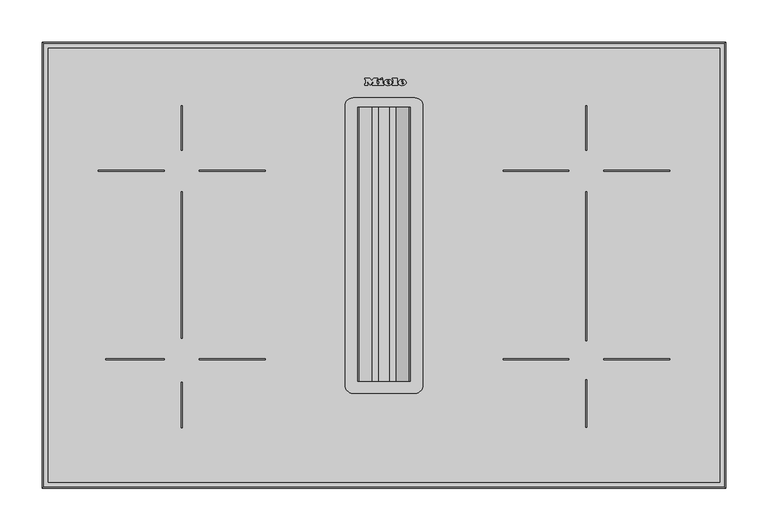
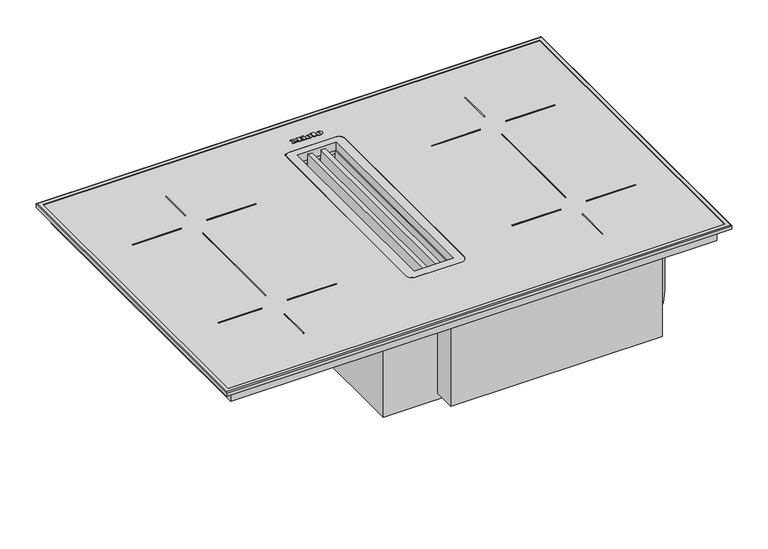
"""IFC4 building model written with IfcOpenShell, lengths in millimetres: proxy geometry, 12183180_D_KMDA7473FR-U : 26747309_D_12183180_KMDA7473FR-U."""

from ifc_helpers import new_model, si_unit, point, frame, frame_2d, origin, origin_with_axes, place, context, project, spatial, polyline, circle_curve, ellipse_curve, trimmed, segment, composite_curve, outline, extrude, faceted_brep, source, transform, mapped, element, save
from ifc_brep_helpers import plane_surface, cylinder_surface, revolved_surface, extruded_surface, advanced_brep


def specialty_equipment_97d2a497(model_context):
    return source(origin(), model_context, "Body", "SolidModel", [
        advanced_brep(
        [(20.8243124, 477.5406203, 6.0), (20.8243124, 478.3486203, 6.0), (26.1763124, 478.3486203, 6.0), (16.8643124, 478.3486203, 6.0), (19.0643124, 475.6446203, 6.0), (26.0403124, 477.5406203, 6.0), (23.6243124, 477.5406203, 6.0), (21.7203124, 476.6446203, 6.0), (20.8243124, 479.3726203, 6.0), (20.8243124, 480.2446203, 6.0), (22.1923124, 480.2446203, 6.0), (22.1923124, 479.3726203, 6.0), (20.8243124, 477.5406203, 5.0), (21.7203124, 476.6446203, 5.0), (23.6243124, 477.5406203, 5.0), (26.0403124, 477.5406203, 5.0), (19.0643124, 475.6446203, 5.0), (16.8643124, 478.3486203, 5.0), (26.1763124, 478.3486203, 5.0), (20.8243124, 478.3486203, 5.0), (20.8243124, 479.3726203, 5.0), (22.1923124, 479.3726203, 5.0), (22.1923124, 480.2446203, 5.0), (20.8243124, 480.2446203, 5.0)],
        [
            (0, 1),
            (1, 2),
            (2, 3, ellipse_curve(frame((21.5203124, 478.3486203, 6.0), z_axis=(0.0, 0.0, 1.0), x_axis=(-1.0, 0.0, 0.0)), 4.656, 3.848)),
            (3, 4, circle_curve(frame((19.960356, 478.6206203, 6.0), z_axis=(0.0, 0.0, 1.0), x_axis=(0.0, -1.0, 0.0)), 3.1079688)),
            (4, 5, circle_curve(frame((21.4271059, 480.7326203, 6.0), z_axis=(0.0, 0.0, 1.0), x_axis=(0.0, -1.0, 0.0)), 5.6098607)),
            (5, 6),
            (6, 7, circle_curve(frame((22.1113712, 478.2846203, 6.0), z_axis=(0.0, 0.0, -1.0), x_axis=(0.0, -1.0, 0.0)), 1.6859795)),
            (7, 0, circle_curve(frame((21.7203124, 477.5406203, 6.0), z_axis=(0.0, 0.0, -1.0), x_axis=(0.0, -1.0, 0.0)), 0.896)),
            (8, 9),
            (9, 10, circle_curve(frame((21.5083124, 480.2446203, 6.0), z_axis=(0.0, 0.0, -1.0), x_axis=(0.0, -1.0, 0.0)), 0.684)),
            (10, 11),
            (11, 8),
            (12, 13, circle_curve(frame((21.7203124, 477.5406203, 5.0), z_axis=(0.0, 0.0, 1.0), x_axis=(0.0, -1.0, 0.0)), 0.896)),
            (13, 14, circle_curve(frame((22.1113712, 478.2846203, 5.0), z_axis=(0.0, 0.0, 1.0), x_axis=(0.0, -1.0, 0.0)), 1.6859795)),
            (14, 15),
            (15, 16, circle_curve(frame((21.4271059, 480.7326203, 5.0), z_axis=(0.0, 0.0, -1.0), x_axis=(0.0, -1.0, 0.0)), 5.6098607)),
            (16, 17, circle_curve(frame((19.960356, 478.6206203, 5.0), z_axis=(0.0, 0.0, -1.0), x_axis=(0.0, -1.0, 0.0)), 3.1079688)),
            (17, 18, ellipse_curve(frame((21.5203124, 478.3486203, 5.0), z_axis=(0.0, 0.0, -1.0), x_axis=(-1.0, 0.0, 0.0)), 4.656, 3.848)),
            (18, 19),
            (19, 12),
            (20, 21),
            (21, 22),
            (22, 23, circle_curve(frame((21.5083124, 480.2446203, 5.0), z_axis=(0.0, 0.0, 1.0), x_axis=(0.0, -1.0, 0.0)), 0.684)),
            (23, 20),
            (0, 12),
            (19, 1),
            (18, 2),
            (5, 15),
            (14, 6),
            (17, 3),
            (13, 7),
            (16, 4),
            (8, 20),
            (23, 9),
            (22, 10),
            (21, 11),
        ],
        [
            plane_surface(frame((20.8243124, 478.3486203, 6.0), z_axis=(0.0, 0.0, 1.0), x_axis=(0.0, 1.0, 0.0))),
            plane_surface(frame((20.8243124, 478.3486203, 5.0), z_axis=(0.0, 0.0, -1.0), x_axis=(0.0, -1.0, 0.0))),
            plane_surface(frame((20.8243124, 477.5406203, 6.0), z_axis=(1.0, 0.0, 0.0), x_axis=(0.0, 0.0, -1.0))),
            plane_surface(frame((20.8243124, 478.3486203, 6.0), z_axis=(0.0, -1.0, 0.0), x_axis=(0.0, 0.0, -1.0))),
            plane_surface(frame((26.0403124, 477.5406203, 6.0), z_axis=(0.0, 1.0, 0.0), x_axis=(0.0, 0.0, -1.0))),
            extruded_surface(trimmed(ellipse_curve(frame((21.5203124, 478.3486203, 4.0), z_axis=(0.0, 0.0, 1.0), x_axis=(-1.0, 0.0, 0.0)), 4.656, 3.848), [point((26.1763124, 478.3486203, 4.0))], [point((16.8643124, 478.3486203, 4.0))], True, "CARTESIAN"), (0.0, 0.0, 1.0), 1.0),
            revolved_surface(polyline([(22.1113712, 476.5986408, 5.0), (22.1113712, 476.5986408, 6.0)]), (22.1113712, 478.2846203, 5.0), (0.0, 0.0, -1.0)),
            revolved_surface(polyline([(21.7203124, 476.6446203, 5.0), (21.7203124, 476.6446203, 6.0)]), (21.7203124, 477.5406203, 5.0), (0.0, 0.0, -1.0)),
            cylinder_surface(frame((19.960356, 478.6206203, 5.0), z_axis=(0.0, 0.0, 1.0), x_axis=(0.0, -1.0, 0.0)), 3.1079688),
            cylinder_surface(frame((21.4271059, 480.7326203, 5.0), z_axis=(0.0, 0.0, 1.0), x_axis=(0.0, -1.0, 0.0)), 5.6098607),
            plane_surface(frame((20.8243124, 479.3726203, 6.0), z_axis=(1.0, 0.0, 0.0), x_axis=(0.0, 0.0, -1.0))),
            revolved_surface(polyline([(21.5083124, 479.5606203, 5.0), (21.5083124, 479.5606203, 6.0)]), (21.5083124, 480.2446203, 5.0), (0.0, 0.0, -1.0)),
            plane_surface(frame((22.1923124, 480.2446203, 6.0), z_axis=(-1.0, 0.0, 0.0), x_axis=(0.0, 0.0, -1.0))),
            plane_surface(frame((22.1923124, 479.3726203, 6.0), z_axis=(0.0, 1.0, 0.0), x_axis=(0.0, 0.0, -1.0))),
        ],
        [
            (0, [[1, 2, 3, 4, 5, 6, 7, 8], [9, 10, 11, 12]]),
            (1, [[13, 14, 15, 16, 17, 18, 19, 20], [21, 22, 23, 24]]),
            (2, [[-1, 25, -20, 26]]),
            (3, [[-2, -26, -19, 27]]),
            (4, [[-6, 28, -15, 29]]),
            (5, [[-3, -27, -18, 30]]),
            (6, [[-7, -29, -14, 31]]),
            (7, [[-8, -31, -13, -25]]),
            (8, [[-4, -30, -17, 32]]),
            (9, [[-5, -32, -16, -28]]),
            (10, [[-9, 33, -24, 34]]),
            (11, [[-10, -34, -23, 35]]),
            (12, [[-11, -35, -22, 36]]),
            (13, [[-12, -36, -21, -33]]),
        ],
    ),
        advanced_brep(
        [(4.1283124, 477.5406203, 6.0), (4.1283124, 478.3486203, 6.0), (9.4803124, 478.3486203, 6.0), (0.1683124, 478.3486203, 6.0), (2.3683124, 475.6446203, 6.0), (9.3443124, 477.5406203, 6.0), (6.9283124, 477.5406203, 6.0), (5.0243124, 476.6446203, 6.0), (4.1283124, 479.3726203, 6.0), (4.1283124, 480.2446203, 6.0), (5.4963124, 480.2446203, 6.0), (5.4963124, 479.3726203, 6.0), (4.1283124, 477.5406203, 5.0), (5.0243124, 476.6446203, 5.0), (6.9283124, 477.5406203, 5.0), (9.3443124, 477.5406203, 5.0), (2.3683124, 475.6446203, 5.0), (0.1683124, 478.3486203, 5.0), (9.4803124, 478.3486203, 5.0), (4.1283124, 478.3486203, 5.0), (4.1283124, 479.3726203, 5.0), (5.4963124, 479.3726203, 5.0), (5.4963124, 480.2446203, 5.0), (4.1283124, 480.2446203, 5.0)],
        [
            (0, 1),
            (1, 2),
            (2, 3, ellipse_curve(frame((4.8243124, 478.3486203, 6.0), z_axis=(0.0, 0.0, 1.0), x_axis=(-1.0, 0.0, 0.0)), 4.656, 3.848)),
            (3, 4, circle_curve(frame((3.264356, 478.6206203, 6.0), z_axis=(0.0, 0.0, 1.0), x_axis=(0.0, -1.0, 0.0)), 3.1079688)),
            (4, 5, circle_curve(frame((4.7311059, 480.7326203, 6.0), z_axis=(0.0, 0.0, 1.0), x_axis=(0.0, -1.0, 0.0)), 5.6098607)),
            (5, 6),
            (6, 7, circle_curve(frame((5.4153712, 478.2846203, 6.0), z_axis=(0.0, 0.0, -1.0), x_axis=(0.0, -1.0, 0.0)), 1.6859795)),
            (7, 0, circle_curve(frame((5.0243124, 477.5406203, 6.0), z_axis=(0.0, 0.0, -1.0), x_axis=(0.0, -1.0, 0.0)), 0.896)),
            (8, 9),
            (9, 10, circle_curve(frame((4.8123124, 480.2446203, 6.0), z_axis=(0.0, 0.0, -1.0), x_axis=(0.0, -1.0, 0.0)), 0.684)),
            (10, 11),
            (11, 8),
            (12, 13, circle_curve(frame((5.0243124, 477.5406203, 5.0), z_axis=(0.0, 0.0, 1.0), x_axis=(0.0, -1.0, 0.0)), 0.896)),
            (13, 14, circle_curve(frame((5.4153712, 478.2846203, 5.0), z_axis=(0.0, 0.0, 1.0), x_axis=(0.0, -1.0, 0.0)), 1.6859795)),
            (14, 15),
            (15, 16, circle_curve(frame((4.7311059, 480.7326203, 5.0), z_axis=(0.0, 0.0, -1.0), x_axis=(0.0, -1.0, 0.0)), 5.6098607)),
            (16, 17, circle_curve(frame((3.264356, 478.6206203, 5.0), z_axis=(0.0, 0.0, -1.0), x_axis=(0.0, -1.0, 0.0)), 3.1079688)),
            (17, 18, ellipse_curve(frame((4.8243124, 478.3486203, 5.0), z_axis=(0.0, 0.0, -1.0), x_axis=(-1.0, 0.0, 0.0)), 4.656, 3.848)),
            (18, 19),
            (19, 12),
            (20, 21),
            (21, 22),
            (22, 23, circle_curve(frame((4.8123124, 480.2446203, 5.0), z_axis=(0.0, 0.0, 1.0), x_axis=(0.0, -1.0, 0.0)), 0.684)),
            (23, 20),
            (0, 12),
            (19, 1),
            (18, 2),
            (5, 15),
            (14, 6),
            (17, 3),
            (13, 7),
            (16, 4),
            (8, 20),
            (23, 9),
            (22, 10),
            (21, 11),
        ],
        [
            plane_surface(frame((4.1283124, 478.3486203, 6.0), z_axis=(0.0, 0.0, 1.0), x_axis=(0.0, 1.0, 0.0))),
            plane_surface(frame((4.1283124, 478.3486203, 5.0), z_axis=(0.0, 0.0, -1.0), x_axis=(0.0, -1.0, 0.0))),
            plane_surface(frame((4.1283124, 477.5406203, 6.0), z_axis=(1.0, 0.0, 0.0), x_axis=(0.0, 0.0, -1.0))),
            plane_surface(frame((4.1283124, 478.3486203, 6.0), z_axis=(0.0, -1.0, 0.0), x_axis=(0.0, 0.0, -1.0))),
            plane_surface(frame((9.3443124, 477.5406203, 6.0), z_axis=(0.0, 1.0, 0.0), x_axis=(0.0, 0.0, -1.0))),
            extruded_surface(trimmed(ellipse_curve(frame((4.8243124, 478.3486203, 4.0), z_axis=(0.0, 0.0, 1.0), x_axis=(-1.0, 0.0, 0.0)), 4.656, 3.848), [point((9.4803124, 478.3486203, 4.0))], [point((0.1683124, 478.3486203, 4.0))], True, "CARTESIAN"), (0.0, 0.0, 1.0), 1.0),
            revolved_surface(polyline([(5.4153712, 476.5986408, 5.0), (5.4153712, 476.5986408, 6.0)]), (5.4153712, 478.2846203, 5.0), (0.0, 0.0, -1.0)),
            revolved_surface(polyline([(5.0243124, 476.6446203, 5.0), (5.0243124, 476.6446203, 6.0)]), (5.0243124, 477.5406203, 5.0), (0.0, 0.0, -1.0)),
            cylinder_surface(frame((3.264356, 478.6206203, 5.0), z_axis=(0.0, 0.0, 1.0), x_axis=(0.0, -1.0, 0.0)), 3.1079688),
            cylinder_surface(frame((4.7311059, 480.7326203, 5.0), z_axis=(0.0, 0.0, 1.0), x_axis=(0.0, -1.0, 0.0)), 5.6098607),
            plane_surface(frame((4.1283124, 479.3726203, 6.0), z_axis=(1.0, 0.0, 0.0), x_axis=(0.0, 0.0, -1.0))),
            revolved_surface(polyline([(4.8123124, 479.5606203, 5.0), (4.8123124, 479.5606203, 6.0)]), (4.8123124, 480.2446203, 5.0), (0.0, 0.0, -1.0)),
            plane_surface(frame((5.4963124, 480.2446203, 6.0), z_axis=(-1.0, 0.0, 0.0), x_axis=(0.0, 0.0, -1.0))),
            plane_surface(frame((5.4963124, 479.3726203, 6.0), z_axis=(0.0, 1.0, 0.0), x_axis=(0.0, 0.0, -1.0))),
        ],
        [
            (0, [[1, 2, 3, 4, 5, 6, 7, 8], [9, 10, 11, 12]]),
            (1, [[13, 14, 15, 16, 17, 18, 19, 20], [21, 22, 23, 24]]),
            (2, [[-1, 25, -20, 26]]),
            (3, [[-2, -26, -19, 27]]),
            (4, [[-6, 28, -15, 29]]),
            (5, [[-3, -27, -18, 30]]),
            (6, [[-7, -29, -14, 31]]),
            (7, [[-8, -31, -13, -25]]),
            (8, [[-4, -30, -17, 32]]),
            (9, [[-5, -32, -16, -28]]),
            (10, [[-9, 33, -24, 34]]),
            (11, [[-10, -34, -23, 35]]),
            (12, [[-11, -35, -22, 36]]),
            (13, [[-12, -36, -21, -33]]),
        ],
    ),
        extrude(outline(polyline([(-4.6156876, 483.1726203), (-1.8956876, 484.4366203), (-1.2956876, 483.1406203), (-4.0076876, 481.8766203), (-4.6156876, 483.1726203)])), frame((0.0, 0.0, 5.0), z_axis=(0.0, 0.0, 1.0), x_axis=(1.0, 0.0, 0.0)), (0.0, 0.0, 1.0), 1.0),
        extrude(outline(polyline([(-6.5916876, 481.7006203), (-1.2076876, 481.7006203), (-1.2076876, 476.9886203), (-0.2796876, 476.9886203), (-0.2796876, 475.6446203), (-6.5916876, 475.6446203), (-6.5916876, 476.9886203), (-5.6396876, 476.9886203), (-5.6396876, 480.2686203), (-6.5916876, 480.2686203), (-6.5916876, 481.7006203)])), frame((0.0, 0.0, 5.0), z_axis=(0.0, 0.0, 1.0), x_axis=(1.0, 0.0, 0.0)), (0.0, 0.0, 1.0), 1.0),
        extrude(outline(polyline([(9.9283124, 482.3406203), (9.9283124, 483.6446203), (15.4323124, 483.6446203), (15.4323124, 476.9886203), (16.4163124, 476.9886203), (16.4163124, 475.6446203), (9.9283124, 475.6446203), (9.9283124, 476.9886203), (10.8883124, 476.9886203), (10.8883124, 482.3406203), (9.9283124, 482.3406203)])), frame((0.0, 0.0, 5.0), z_axis=(0.0, 0.0, 1.0), x_axis=(1.0, 0.0, 0.0)), (0.0, 0.0, 1.0), 1.0),
        extrude(outline(polyline([(-22.5356876, 482.3406203), (-22.5356876, 483.6446203), (-16.9596876, 483.6446203), (-14.6156876, 480.6446203), (-12.2796876, 483.6446203), (-7.4076876, 483.6446203), (-7.4076876, 482.3406203), (-8.4236876, 482.3406203), (-8.4236876, 476.9886203), (-7.4076876, 476.9886203), (-7.4076876, 475.6446203), (-13.7916876, 475.6446203), (-13.7916876, 476.9886203), (-12.8076876, 476.9886203), (-12.8076876, 480.4598426), (-16.3996876, 475.6446203), (-19.9756876, 480.3917451), (-19.9756876, 476.9886203), (-19.0156876, 476.9886203), (-19.0156876, 475.6446203), (-22.5356876, 475.6446203), (-22.5356876, 476.9886203), (-21.5676876, 476.9886203), (-21.5676876, 482.3406203), (-22.5356876, 482.3406203)])), frame((0.0, 0.0, 5.0), z_axis=(0.0, 0.0, 1.0), x_axis=(1.0, 0.0, 0.0)), (0.0, 0.0, 1.0), 1.0),
        faceted_brep([(-71.7186221, 463.5236466, -23.0), (-364.8972461, 463.5236466, -23.0), (-364.8972461, 62.427471, -23.0), (-71.7186221, 62.427471, -23.0), (-71.7186221, 62.427471, -49.8134964), (-364.8972461, 62.427471, -49.8134964), (-364.8972461, 463.5236466, -49.8134964), (-86.144412, 463.5236466, -49.8134964), (-86.144412, 355.5236466, -49.8134964), (-71.7186221, 355.5236466, -49.8134964), (-71.7186221, 463.5236466, -31.728133), (-86.144412, 463.5236466, -31.728133), (-71.7186221, 355.5236466, -31.728133), (-86.144412, 355.5236466, -31.728133)], [[[0, 1, 2, 3]], [[4, 5, 6, 7, 8, 9]], [[1, 0, 10, 11, 7, 6]], [[2, 1, 6, 5]], [[3, 2, 5, 4]], [[0, 3, 4, 9, 12, 10]], [[8, 13, 12, 9]], [[12, 13, 11, 10]], [[13, 8, 7, 11]]]),
        extrude(outline(polyline([(388.0, 511.0), (388.0, 15.0), (-388.0, 15.0), (-388.0, 511.0), (388.0, 511.0)]), holes=[composite_curve([segment(trimmed(circle_curve(frame_2d((36.5, 121.5)), 9.5), [point((36.5, 112.0))], [point((46.0, 121.5))], True, "CARTESIAN"), True, "CONTINUOUS"), segment(polyline([(46.0, 121.5), (46.0, 451.0)]), True, "CONTINUOUS"), segment(trimmed(circle_curve(frame_2d((36.5, 451.0)), 9.5), [point((46.0, 451.0))], [point((36.5, 460.5))], True, "CARTESIAN"), True, "CONTINUOUS"), segment(polyline([(36.5, 460.5), (-36.5395335, 460.5)]), True, "CONTINUOUS"), segment(trimmed(circle_curve(frame_2d((-36.5395335, 451.0395335)), 9.4604665), [point((-36.5395335, 460.5))], [point((-46.0, 451.0395335))], True, "CARTESIAN"), True, "CONTINUOUS"), segment(polyline([(-46.0, 451.0395335), (-46.0, 121.5)]), True, "CONTINUOUS"), segment(trimmed(circle_curve(frame_2d((-36.5, 121.5)), 9.5), [point((-46.0, 121.5))], [point((-36.5, 112.0))], True, "CARTESIAN"), True, "CONTINUOUS"), segment(polyline([(-36.5, 112.0), (36.5, 112.0)]), True, "CONTINUOUS")], self_intersect=False)]), frame((0.0, 0.0, -23.0), z_axis=(0.0, 0.0, 1.0), x_axis=(1.0, 0.0, 0.0)), (0.0, 0.0, 1.0), 23.0),
        extrude(outline(polyline([(400.0, 523.0), (400.0, 3.0), (-400.0, 3.0), (-400.0, 523.0), (400.0, 523.0)]), holes=[composite_curve([segment(polyline([(36.5, 460.5), (-36.5, 460.5)]), True, "CONTINUOUS"), segment(trimmed(circle_curve(frame_2d((-36.5, 451.0)), 9.5), [point((-36.5, 460.5))], [point((-46.0, 451.0))], True, "CARTESIAN"), True, "CONTINUOUS"), segment(polyline([(-46.0, 451.0), (-46.0, 121.5)]), True, "CONTINUOUS"), segment(trimmed(circle_curve(frame_2d((-36.5, 121.5)), 9.5), [point((-46.0, 121.5))], [point((-36.5, 112.0))], True, "CARTESIAN"), True, "CONTINUOUS"), segment(polyline([(-36.5, 112.0), (36.5, 112.0)]), True, "CONTINUOUS"), segment(trimmed(circle_curve(frame_2d((36.5, 121.5)), 9.5), [point((36.5, 112.0))], [point((46.0, 121.5))], True, "CARTESIAN"), True, "CONTINUOUS"), segment(polyline([(46.0, 121.5), (46.0, 451.0)]), True, "CONTINUOUS"), segment(trimmed(circle_curve(frame_2d((36.5, 451.0)), 9.5), [point((46.0, 451.0))], [point((36.5, 460.5))], True, "CARTESIAN"), True, "CONTINUOUS")], self_intersect=False)]), origin_with_axes(), (0.0, 0.0, 1.0), 5.0),
        advanced_brep(
        [(401.854005, 524.854005, 5.8455827), (401.854005, 524.854005, 0.0), (401.854005, 1.145995, 0.0), (401.854005, 1.145995, 5.8455827), (395.9867041, 518.9867041, 7.0), (395.9867041, 518.9867041, 5.8455827), (395.9867041, 7.0132959, 5.8455827), (395.9867041, 7.0132959, 7.0), (403.0, 526.0, 0.0), (403.0, 526.0, 5.5), (403.0, 0.0, 5.5), (403.0, 0.0, 0.0), (-401.854005, 1.145995, 0.0), (-401.854005, 1.145995, 5.8455827), (-395.9867041, 7.0132959, 5.8455827), (-395.9867041, 7.0132959, 7.0), (-403.0, 0.0, 5.5), (-403.0, 0.0, 0.0), (-401.854005, 524.854005, 0.0), (-401.854005, 524.854005, 5.8455827), (-395.9867041, 518.9867041, 5.8455827), (-395.9867041, 518.9867041, 7.0), (-403.0, 526.0, 5.5), (-403.0, 526.0, 0.0), (401.5, 524.5, 7.0), (-401.5, 524.5, 7.0), (-401.5, 1.5, 7.0), (401.5, 1.5, 7.0)],
        [
            (0, 1),
            (1, 2),
            (2, 3),
            (3, 0),
            (4, 5),
            (5, 6),
            (6, 7),
            (7, 4),
            (8, 9),
            (9, 10),
            (10, 11),
            (11, 8),
            (2, 12),
            (12, 13),
            (13, 3),
            (6, 14),
            (14, 15),
            (15, 7),
            (10, 16),
            (16, 17),
            (17, 11),
            (12, 18),
            (18, 19),
            (19, 13),
            (14, 20),
            (20, 21),
            (21, 15),
            (16, 22),
            (22, 23),
            (23, 17),
            (23, 8),
            (1, 18),
            (0, 19),
            (5, 20),
            (4, 21),
            (24, 25),
            (25, 26),
            (26, 27),
            (27, 24),
            (22, 9),
            (9, 24, ellipse_curve(frame((401.5, 524.5, 5.5), z_axis=(0.7071067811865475, -0.7071067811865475, 0.0), x_axis=(0.7071067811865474, 0.7071067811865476, 0.0)), 2.1213203, 1.5)),
            (27, 10, ellipse_curve(frame((401.5, 1.5, 5.5), z_axis=(0.7071067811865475, 0.7071067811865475, 0.0), x_axis=(-0.7071067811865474, 0.7071067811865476, 0.0)), 2.1213203, 1.5)),
            (26, 16, ellipse_curve(frame((-401.5, 1.5, 5.5), z_axis=(0.7071067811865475, -0.7071067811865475, 0.0), x_axis=(0.7071067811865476, 0.7071067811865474, 0.0)), 2.1213203, 1.5)),
            (25, 22, ellipse_curve(frame((-401.5, 524.5, 5.5), z_axis=(-0.7071067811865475, -0.7071067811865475, 0.0), x_axis=(0.7071067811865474, -0.7071067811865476, 0.0)), 2.1213203, 1.5)),
        ],
        [
            plane_surface(frame((401.854005, 524.854005, 0.0), z_axis=(-1.0, 0.0, 0.0), x_axis=(0.0, -1.0, 0.0))),
            plane_surface(frame((395.9867041, 518.9867041, 5.8455827), z_axis=(-1.0, 0.0, 0.0), x_axis=(0.0, -1.0, 0.0))),
            plane_surface(frame((403.0, 526.0, 5.5), z_axis=(1.0, 0.0, 0.0), x_axis=(0.0, -1.0, 0.0))),
            plane_surface(frame((401.854005, 1.145995, 0.0), z_axis=(0.0, 1.0, 0.0), x_axis=(-1.0, 0.0, 0.0))),
            plane_surface(frame((395.9867041, 7.0132959, 5.8455827), z_axis=(0.0, 1.0, 0.0), x_axis=(-1.0, 0.0, 0.0))),
            plane_surface(frame((403.0, 0.0, 5.5), z_axis=(0.0, -1.0, 0.0), x_axis=(-1.0, 0.0, 0.0))),
            plane_surface(frame((-401.854005, 1.145995, 0.0), z_axis=(1.0, 0.0, 0.0), x_axis=(0.0, 1.0, 0.0))),
            plane_surface(frame((-395.9867041, 7.0132959, 5.8455827), z_axis=(1.0, 0.0, 0.0), x_axis=(0.0, 1.0, 0.0))),
            plane_surface(frame((-403.0, 0.0, 5.5), z_axis=(-1.0, 0.0, 0.0), x_axis=(0.0, 1.0, 0.0))),
            plane_surface(frame((-403.0, 526.0, 0.0), z_axis=(0.0, 0.0, -1.0), x_axis=(1.0, 0.0, 0.0))),
            plane_surface(frame((-401.854005, 524.854005, 0.0), z_axis=(0.0, -1.0, 0.0), x_axis=(1.0, 0.0, 0.0))),
            plane_surface(frame((-401.854005, 524.854005, 5.8455827), z_axis=(0.0, 0.0, -1.0), x_axis=(1.0, 0.0, 0.0))),
            plane_surface(frame((-395.9867041, 518.9867041, 5.8455827), z_axis=(0.0, -1.0, 0.0), x_axis=(1.0, 0.0, 0.0))),
            plane_surface(frame((-395.9867041, 518.9867041, 7.0), z_axis=(0.0, 0.0, 1.0), x_axis=(1.0, 0.0, 0.0))),
            plane_surface(frame((-403.0, 526.0, 5.5), z_axis=(0.0, 1.0, 0.0), x_axis=(1.0, 0.0, 0.0))),
            cylinder_surface(frame((401.5, 526.0, 5.5), z_axis=(0.0, 1.0, 0.0), x_axis=(1.0, 0.0, 0.0)), 1.5),
            cylinder_surface(frame((403.0, 1.5, 5.5), z_axis=(1.0, 0.0, 0.0), x_axis=(0.0, -1.0, 0.0)), 1.5),
            cylinder_surface(frame((-401.5, 0.0, 5.5), z_axis=(0.0, -1.0, 0.0), x_axis=(-1.0, 0.0, 0.0)), 1.5),
            cylinder_surface(frame((-403.0, 524.5, 5.5), z_axis=(-1.0, 0.0, 0.0), x_axis=(0.0, 1.0, 0.0)), 1.5),
        ],
        [
            (0, [[1, 2, 3, 4]]),
            (1, [[5, 6, 7, 8]]),
            (2, [[9, 10, 11, 12]]),
            (3, [[-3, 13, 14, 15]]),
            (4, [[-7, 16, 17, 18]]),
            (5, [[-11, 19, 20, 21]]),
            (6, [[-14, 22, 23, 24]]),
            (7, [[-17, 25, 26, 27]]),
            (8, [[-20, 28, 29, 30]]),
            (9, [[-21, -30, 31, -12], [32, -22, -13, -2]]),
            (10, [[-23, -32, -1, 33]]),
            (11, [[-15, -24, -33, -4], [34, -25, -16, -6]]),
            (12, [[-26, -34, -5, 35]]),
            (13, [[36, 37, 38, 39], [-18, -27, -35, -8]]),
            (14, [[-29, 40, -9, -31]]),
            (15, [[41, -39, 42, -10]]),
            (16, [[-42, -38, 43, -19]]),
            (17, [[-43, -37, 44, -28]]),
            (18, [[-44, -36, -41, -40]]),
        ],
    ),
        extrude(outline(polyline([(-45.5823584, -70.2509053), (-35.5367274, -70.2509053), (-35.5367274, -77.4712026), (-36.7924312, -77.4712026), (-36.7924312, -71.5066091), (-39.7747279, -71.5066091), (-39.7747279, -77.1572766), (-41.0304318, -77.1572766), (-41.0304318, -71.5066091), (-44.3266545, -71.5066091), (-44.3266545, -77.6281655), (-45.5823584, -77.6281655), (-45.5823584, -70.2509053)])), frame((0.0, 408.5236466, 0.0), z_axis=(0.0, 1.0, 0.0), x_axis=(0.0, 0.0, 1.0)), (0.0, 0.0, 1.0), 1.0),
        extrude(outline(polyline([(-45.5823584, -79.5117214), (-35.5367274, -79.5117214), (-35.5367274, -80.7674252), (-44.3266545, -80.7674252), (-44.3266545, -85.7902407), (-45.5823584, -85.7902407), (-45.5823584, -79.5117214)])), frame((0.0, 408.5236466, 0.0), z_axis=(0.0, 1.0, 0.0), x_axis=(0.0, 0.0, 1.0)), (0.0, 0.0, 1.0), 1.0),
        extrude(outline(polyline([(-238.0, 350.0), (-238.0, 177.0), (-239.0, 177.0), (-239.0, 350.0), (-238.0, 350.0)])), frame((0.0, 0.0, 5.0), z_axis=(0.0, 0.0, 1.0), x_axis=(1.0, 0.0, 0.0)), (0.0, 0.0, 1.0), 1.0),
        extrude(outline(polyline([(238.0, 350.0), (239.0, 350.0), (239.0, 174.2818617), (238.0, 174.2818617), (238.0, 350.0)])), frame((0.0, 0.0, 5.0), z_axis=(0.0, 0.0, 1.0), x_axis=(1.0, 0.0, 0.0)), (0.0, 0.0, 1.0), 1.0),
        advanced_brep(
        [(-86.144412, 373.5236466, -40.8134964), (-86.144412, 383.5236466, -40.8134964), (-71.144412, 373.5236466, -40.8134964), (-81.144412, 383.5236466, -40.8134964), (-71.144412, 408.5236466, -40.8134964), (-81.144412, 408.5236466, -40.8134964)],
        [
            (0, 1, circle_curve(frame((-86.144412, 378.5236466, -40.8134964), z_axis=(-1.0, 0.0, 0.0), x_axis=(0.0, 1.0, 0.0)), 5.0)),
            (1, 0, circle_curve(frame((-86.144412, 378.5236466, -40.8134964), z_axis=(-1.0, 0.0, 0.0), x_axis=(0.0, 1.0, 0.0)), 5.0)),
            (0, 2),
            (2, 3, ellipse_curve(frame((-76.144412, 378.5236466, -40.8134964), z_axis=(-0.7071067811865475, -0.7071067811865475, 0.0), x_axis=(-0.7071067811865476, 0.7071067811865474, 0.0)), 7.0710678, 5.0)),
            (3, 1),
            (3, 2, ellipse_curve(frame((-76.144412, 378.5236466, -40.8134964), z_axis=(-0.7071067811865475, -0.7071067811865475, 0.0), x_axis=(-0.7071067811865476, 0.7071067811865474, 0.0)), 7.0710678, 5.0)),
            (4, 5, circle_curve(frame((-76.144412, 408.5236466, -40.8134964), z_axis=(0.0, 1.0, 0.0), x_axis=(-1.0, 0.0, 0.0)), 5.0)),
            (5, 4, circle_curve(frame((-76.144412, 408.5236466, -40.8134964), z_axis=(0.0, 1.0, 0.0), x_axis=(-1.0, 0.0, 0.0)), 5.0)),
            (2, 4),
            (5, 3),
        ],
        [
            plane_surface(frame((-86.144412, 378.5236466, 0.0), z_axis=(-1.0, 0.0, 0.0), x_axis=(0.0, 0.0, 1.0))),
            cylinder_surface(frame((-86.144412, 378.5236466, -40.8134964), z_axis=(-1.0, 0.0, 0.0), x_axis=(0.0, 1.0, 0.0)), 5.0),
            plane_surface(frame((-76.144412, 408.5236466, 0.0), z_axis=(0.0, 1.0, 0.0), x_axis=(0.0, 0.0, 1.0))),
            cylinder_surface(frame((-76.144412, 378.5236466, -40.8134964), z_axis=(0.0, -1.0, 0.0), x_axis=(-1.0, 0.0, 0.0)), 5.0),
        ],
        [
            (0, [[1, 2]]),
            (1, [[-1, 3, 4, 5]]),
            (1, [[-2, -5, 6, -3]]),
            (2, [[7, 8]]),
            (3, [[-4, 9, -8, 10]]),
            (3, [[-6, -10, -7, -9]]),
        ],
    ),
        extrude(outline(polyline([(-259.0, 375.0), (-259.0, 374.0), (-337.0, 374.0), (-337.0, 375.0), (-259.0, 375.0)])), frame((0.0, 0.0, 5.0), z_axis=(0.0, 0.0, 1.0), x_axis=(1.0, 0.0, 0.0)), (0.0, 0.0, 1.0), 1.0),
        extrude(outline(polyline([(-140.0, 375.0), (-140.0, 374.0), (-218.0, 374.0), (-218.0, 375.0), (-140.0, 375.0)])), frame((0.0, 0.0, 5.0), z_axis=(0.0, 0.0, 1.0), x_axis=(1.0, 0.0, 0.0)), (0.0, 0.0, 1.0), 1.0),
        extrude(outline(polyline([(-259.0, 151.7), (-328.4422621, 151.7), (-328.4422621, 152.7), (-259.0, 152.7), (-259.0, 151.7)])), frame((0.0, 0.0, 5.0), z_axis=(0.0, 0.0, 1.0), x_axis=(1.0, 0.0, 0.0)), (0.0, 0.0, 1.0), 1.0),
        extrude(outline(polyline([(-140.0, 152.7), (-140.0, 151.7), (-218.0, 151.7), (-218.0, 152.7), (-140.0, 152.7)])), frame((0.0, 0.0, 5.0), z_axis=(0.0, 0.0, 1.0), x_axis=(1.0, 0.0, 0.0)), (0.0, 0.0, 1.0), 1.0),
        extrude(outline(polyline([(259.0, 375.0), (337.0, 375.0), (337.0, 374.0), (259.0, 374.0), (259.0, 375.0)])), frame((0.0, 0.0, 5.0), z_axis=(0.0, 0.0, 1.0), x_axis=(1.0, 0.0, 0.0)), (0.0, 0.0, 1.0), 1.0),
        extrude(outline(polyline([(140.5, 375.0), (218.0, 375.0), (218.0, 374.0), (140.5, 374.0), (140.5, 375.0)])), frame((0.0, 0.0, 5.0), z_axis=(0.0, 0.0, 1.0), x_axis=(1.0, 0.0, 0.0)), (0.0, 0.0, 1.0), 1.0),
        extrude(outline(polyline([(-239.0, 71.5), (-239.0, 125.0), (-238.0, 125.0), (-238.0, 71.5), (-239.0, 71.5)])), frame((0.0, 0.0, 5.0), z_axis=(0.0, 0.0, 1.0), x_axis=(1.0, 0.0, 0.0)), (0.0, 0.0, 1.0), 1.0),
        extrude(outline(polyline([(239.0, 72.0), (238.0, 72.0), (238.0, 128.0), (239.0, 128.0), (239.0, 72.0)])), frame((0.0, 0.0, 5.0), z_axis=(0.0, 0.0, 1.0), x_axis=(1.0, 0.0, 0.0)), (0.0, 0.0, 1.0), 1.0),
        extrude(outline(polyline([(239.0, 451.5), (239.0, 399.0), (238.0, 399.0), (238.0, 451.5), (239.0, 451.5)])), frame((0.0, 0.0, 5.0), z_axis=(0.0, 0.0, 1.0), x_axis=(1.0, 0.0, 0.0)), (0.0, 0.0, 1.0), 1.0),
        extrude(outline(polyline([(-239.0, 451.5), (-238.0, 451.5), (-238.0, 399.0), (-239.0, 399.0), (-239.0, 451.5)])), frame((0.0, 0.0, 5.0), z_axis=(0.0, 0.0, 1.0), x_axis=(1.0, 0.0, 0.0)), (0.0, 0.0, 1.0), 1.0),
        extrude(outline(polyline([(259.0, 151.7), (259.0, 152.7), (337.0, 152.7), (337.0, 151.7), (259.0, 151.7)])), frame((0.0, 0.0, 5.0), z_axis=(0.0, 0.0, 1.0), x_axis=(1.0, 0.0, 0.0)), (0.0, 0.0, 1.0), 1.0),
        extrude(outline(polyline([(140.5, 151.7), (140.5, 152.7), (218.0, 152.7), (218.0, 151.7), (140.5, 151.7)])), frame((0.0, 0.0, 5.0), z_axis=(0.0, 0.0, 1.0), x_axis=(1.0, 0.0, 0.0)), (0.0, 0.0, 1.0), 1.0),
        extrude(outline(polyline([(14.0, 126.177901), (7.0, 126.177901), (7.0, 449.3010247), (14.0, 449.3010247), (14.0, 126.177901)])), frame((0.0, 0.0, -30.0), z_axis=(0.0, 0.0, 1.0), x_axis=(1.0, 0.0, 0.0)), (0.0, 0.0, 1.0), 30.0),
        extrude(outline(polyline([(-7.0, 126.177901), (-14.0, 126.177901), (-14.0, 449.3010247), (-7.0, 449.3010247), (-7.0, 126.177901)])), frame((0.0, 0.0, -30.0), z_axis=(0.0, 0.0, 1.0), x_axis=(1.0, 0.0, 0.0)), (0.0, 0.0, 1.0), 30.0),
        extrude(outline(polyline([(-149.3933796, 8.7812172), (-23.0, 31.0806576), (-8.6002538, 31.0806576), (-8.6002538, 30.0806576), (-22.9176, 30.0806576), (-148.3933796, 7.9334714), (-148.3933796, -10.4294884), (-23.1226136, -30.0513858), (-8.6002538, -30.0513858), (-8.6002538, -31.0802193), (-23.0, -31.0802193), (-149.3933796, -11.2930358), (-149.3933796, 8.7812172)])), frame((0.0, 126.177901, 0.0), z_axis=(0.0, 1.0, 0.0), x_axis=(0.0, 0.0, 1.0)), (0.0, 0.0, 1.0), 323.1231238),
        advanced_brep(
        [(65.0, 90.0, -196.0003671), (65.0, 90.0, -23.0), (-55.0, 90.0, -23.0), (-58.0, 90.0, -26.0), (-58.0, 90.0, -78.0), (-97.8585744, 90.0, -78.0), (-100.8585744, 90.0, -81.0), (-100.8585744, 90.0, -196.0003671), (65.0, 476.0, -196.0003671), (-100.8585744, 476.0, -196.0003671), (-100.8585744, 476.0, -81.0), (-97.8585744, 476.0, -78.0), (-58.0, 476.0, -78.0), (-58.0, 476.0, -26.0), (-55.0, 476.0, -23.0), (65.0, 476.0, -23.0), (-31.0802193, 449.3010247, -23.0), (31.0806576, 449.3010247, -23.0), (31.0806576, 126.177901, -23.0), (-31.0802193, 126.177901, -23.0), (31.0806576, 449.3010247, -150.3933796), (-31.0802193, 449.3010247, -150.3933796), (-31.0802193, 126.177901, -150.3933796), (31.0806576, 126.177901, -150.3933796)],
        [
            (0, 1),
            (1, 2),
            (2, 3, circle_curve(frame((-55.0, 90.0, -26.0), z_axis=(0.0, -1.0, 0.0), x_axis=(1.0, 0.0, 0.0)), 3.0)),
            (3, 4),
            (4, 5),
            (5, 6, circle_curve(frame((-97.8585744, 90.0, -81.0), z_axis=(0.0, -1.0, 0.0), x_axis=(1.0, 0.0, 0.0)), 3.0)),
            (6, 7),
            (7, 0),
            (8, 9),
            (9, 10),
            (10, 11, circle_curve(frame((-97.8585744, 476.0, -81.0), z_axis=(0.0, 1.0, 0.0), x_axis=(1.0, 0.0, 0.0)), 3.0)),
            (11, 12),
            (12, 13),
            (13, 14, circle_curve(frame((-55.0, 476.0, -26.0), z_axis=(0.0, 1.0, 0.0), x_axis=(1.0, 0.0, 0.0)), 3.0)),
            (14, 15),
            (15, 8),
            (0, 8),
            (15, 1),
            (14, 2),
            (16, 17),
            (17, 18),
            (18, 19),
            (19, 16),
            (3, 13),
            (12, 4),
            (11, 5),
            (6, 10),
            (9, 7),
            (20, 21),
            (21, 22),
            (22, 23),
            (23, 20),
            (20, 17),
            (16, 21),
            (19, 22),
            (18, 23),
        ],
        [
            plane_surface(frame((65.0, 90.0, -196.0003671), z_axis=(0.0, -1.0, 0.0), x_axis=(0.0, 0.0, 1.0))),
            plane_surface(frame((65.0, 476.0, -196.0003671), z_axis=(0.0, 1.0, 0.0), x_axis=(0.0, 0.0, -1.0))),
            plane_surface(frame((65.0, 90.0, -196.0003671), z_axis=(1.0, 0.0, 0.0), x_axis=(0.0, 1.0, 0.0))),
            plane_surface(frame((65.0, 90.0, -23.0), z_axis=(0.0, 0.0, 1.0), x_axis=(0.0, 1.0, 0.0))),
            plane_surface(frame((-58.0, 90.0, -26.0), z_axis=(-1.0, 0.0, 0.0), x_axis=(0.0, 1.0, 0.0))),
            plane_surface(frame((-58.0, 90.0, -78.0), z_axis=(0.0, 0.0, 1.0), x_axis=(0.0, 1.0, 0.0))),
            plane_surface(frame((-100.8585744, 90.0, -81.0), z_axis=(-1.0, 0.0, 0.0), x_axis=(0.0, 1.0, 0.0))),
            plane_surface(frame((-100.8585744, 90.0, -196.0003671), z_axis=(0.0, 0.0, -1.0), x_axis=(0.0, 1.0, 0.0))),
            cylinder_surface(frame((-55.0, 476.0, -26.0), z_axis=(0.0, -1.0, 0.0), x_axis=(1.0, 0.0, 0.0)), 3.0),
            cylinder_surface(frame((-97.8585744, 476.0, -81.0), z_axis=(0.0, -1.0, 0.0), x_axis=(1.0, 0.0, 0.0)), 3.0),
            plane_surface(frame((-31.0802193, 449.3010247, -150.3933796), z_axis=(0.0, 0.0, 1.0), x_axis=(1.0, 0.0, 0.0))),
            plane_surface(frame((31.0806576, 449.3010247, 0.0), z_axis=(0.0, -1.0, 0.0), x_axis=(0.0, 0.0, -1.0))),
            plane_surface(frame((-31.0802193, 449.3010247, 0.0), z_axis=(1.0, 0.0, 0.0), x_axis=(0.0, 0.0, -1.0))),
            plane_surface(frame((-31.0802193, 126.177901, 0.0), z_axis=(0.0, 1.0, 0.0), x_axis=(0.0, 0.0, -1.0))),
            plane_surface(frame((31.0806576, 126.177901, 0.0), z_axis=(-1.0, 0.0, 0.0), x_axis=(0.0, 0.0, -1.0))),
        ],
        [
            (0, [[1, 2, 3, 4, 5, 6, 7, 8]]),
            (1, [[9, 10, 11, 12, 13, 14, 15, 16]]),
            (2, [[-1, 17, -16, 18]]),
            (3, [[-2, -18, -15, 19], [20, 21, 22, 23]]),
            (4, [[-4, 24, -13, 25]]),
            (5, [[-5, -25, -12, 26]]),
            (6, [[-7, 27, -10, 28]]),
            (7, [[-8, -28, -9, -17]]),
            (8, [[-3, -19, -14, -24]]),
            (9, [[-6, -26, -11, -27]]),
            (10, [[29, 30, 31, 32]]),
            (11, [[-29, 33, -20, 34]]),
            (12, [[-30, -34, -23, 35]]),
            (13, [[-31, -35, -22, 36]]),
            (14, [[-32, -36, -21, -33]]),
        ],
    ),
        advanced_brep(
        [(-36.5, 112.0, 5.0), (36.5, 112.0, 5.0), (46.0, 121.5, 5.0), (46.0, 453.9999992, 5.0), (36.5, 463.4999992, 5.0), (-36.5, 463.4999992, 5.0), (-46.0, 453.9999992, 5.0), (-46.0, 121.5, 5.0), (31.0806576, 449.3010247, 5.0), (31.0806576, 126.177901, 5.0), (-31.0802193, 126.177901, 5.0), (-31.0802193, 449.3010247, 5.0), (-36.5, 112.0, -8.6002538), (-46.0, 121.5, -8.6002538), (-46.0, 453.9999992, -8.6002538), (-36.5, 463.4999992, -8.6002538), (36.5, 463.4999992, -8.6002538), (46.0, 453.9999992, -8.6002538), (46.0, 121.5, -8.6002538), (36.5, 112.0, -8.6002538), (31.0806576, 449.3010247, -8.6002538), (-31.0802193, 449.3010247, -8.6002538), (-31.0802193, 126.177901, -8.6002538), (31.0806576, 126.177901, -8.6002538), (31.0806576, 449.3010247, 0.0), (31.0806576, 126.177901, 0.0), (-31.0802193, 126.177901, 0.0), (-31.0802193, 449.3010247, 0.0)],
        [
            (0, 1),
            (1, 2, circle_curve(frame((36.5, 121.5, 5.0), z_axis=(0.0, 0.0, 1.0), x_axis=(1.0, 0.0, 0.0)), 9.5)),
            (2, 3),
            (3, 4, circle_curve(frame((36.5, 453.9999992, 5.0), z_axis=(0.0, 0.0, 1.0), x_axis=(1.0, 0.0, 0.0)), 9.5)),
            (4, 5),
            (5, 6, circle_curve(frame((-36.5, 453.9999992, 5.0), z_axis=(0.0, 0.0, 1.0), x_axis=(1.0, 0.0, 0.0)), 9.5)),
            (6, 7),
            (7, 0, circle_curve(frame((-36.5, 121.5, 5.0), z_axis=(0.0, 0.0, 1.0), x_axis=(1.0, 0.0, 0.0)), 9.5)),
            (8, 9),
            (9, 10),
            (10, 11),
            (11, 8),
            (12, 13, circle_curve(frame((-36.5, 121.5, -8.6002538), z_axis=(0.0, 0.0, -1.0), x_axis=(1.0, 0.0, 0.0)), 9.5)),
            (13, 14),
            (14, 15, circle_curve(frame((-36.5, 453.9999992, -8.6002538), z_axis=(0.0, 0.0, -1.0), x_axis=(1.0, 0.0, 0.0)), 9.5)),
            (15, 16),
            (16, 17, circle_curve(frame((36.5, 453.9999992, -8.6002538), z_axis=(0.0, 0.0, -1.0), x_axis=(1.0, 0.0, 0.0)), 9.5)),
            (17, 18),
            (18, 19, circle_curve(frame((36.5, 121.5, -8.6002538), z_axis=(0.0, 0.0, -1.0), x_axis=(1.0, 0.0, 0.0)), 9.5)),
            (19, 12),
            (20, 21),
            (21, 22),
            (22, 23),
            (23, 20),
            (0, 12),
            (19, 1),
            (18, 2),
            (17, 3),
            (16, 4),
            (15, 5),
            (14, 6),
            (13, 7),
            (8, 24),
            (24, 20),
            (23, 25),
            (25, 9),
            (22, 26),
            (26, 10),
            (21, 27),
            (27, 11),
        ],
        [
            plane_surface(frame((36.5, 112.0, 5.0), z_axis=(0.0, 0.0, 1.0), x_axis=(1.0, 0.0, 0.0))),
            plane_surface(frame((36.5, 112.0, -8.6002538), z_axis=(0.0, 0.0, -1.0), x_axis=(-1.0, 0.0, 0.0))),
            plane_surface(frame((-36.5, 112.0, 5.0), z_axis=(0.0, -1.0, 0.0), x_axis=(0.0, 0.0, -1.0))),
            cylinder_surface(frame((36.5, 121.5, -8.6002538), z_axis=(0.0, 0.0, 1.0), x_axis=(1.0, 0.0, 0.0)), 9.5),
            plane_surface(frame((46.0, 121.5, 5.0), z_axis=(1.0, 0.0, 0.0), x_axis=(0.0, 0.0, -1.0))),
            cylinder_surface(frame((36.5, 453.9999992, -8.6002538), z_axis=(0.0, 0.0, 1.0), x_axis=(1.0, 0.0, 0.0)), 9.5),
            plane_surface(frame((36.5, 463.4999992, 5.0), z_axis=(0.0, 1.0, 0.0), x_axis=(0.0, 0.0, -1.0))),
            cylinder_surface(frame((-36.5, 453.9999992, -8.6002538), z_axis=(0.0, 0.0, 1.0), x_axis=(1.0, 0.0, 0.0)), 9.5),
            plane_surface(frame((-46.0, 453.9999992, 5.0), z_axis=(-1.0, 0.0, 0.0), x_axis=(0.0, 0.0, -1.0))),
            cylinder_surface(frame((-36.5, 121.5, -8.6002538), z_axis=(0.0, 0.0, 1.0), x_axis=(1.0, 0.0, 0.0)), 9.5),
            plane_surface(frame((31.0806576, 449.3010247, 5.0), z_axis=(-1.0, 0.0, 0.0), x_axis=(0.0, 0.0, -1.0))),
            plane_surface(frame((31.0806576, 126.177901, 5.0), z_axis=(0.0, 1.0, 0.0), x_axis=(0.0, 0.0, -1.0))),
            plane_surface(frame((-31.0802193, 126.177901, 5.0), z_axis=(1.0, 0.0, 0.0), x_axis=(0.0, 0.0, -1.0))),
            plane_surface(frame((-31.0802193, 449.3010247, 5.0), z_axis=(0.0, -1.0, 0.0), x_axis=(0.0, 0.0, -1.0))),
        ],
        [
            (0, [[1, 2, 3, 4, 5, 6, 7, 8], [9, 10, 11, 12]]),
            (1, [[13, 14, 15, 16, 17, 18, 19, 20], [21, 22, 23, 24]]),
            (2, [[-1, 25, -20, 26]]),
            (3, [[-2, -26, -19, 27]]),
            (4, [[-3, -27, -18, 28]]),
            (5, [[-4, -28, -17, 29]]),
            (6, [[-5, -29, -16, 30]]),
            (7, [[-6, -30, -15, 31]]),
            (8, [[-7, -31, -14, 32]]),
            (9, [[-8, -32, -13, -25]]),
            (10, [[-9, 33, 34, -24, 35, 36]]),
            (11, [[-10, -36, -35, -23, 37, 38]]),
            (12, [[-11, -38, -37, -22, 39, 40]]),
            (13, [[-12, -40, -39, -21, -34, -33]]),
        ],
    ),
        extrude(outline(composite_curve([segment(trimmed(circle_curve(frame_2d((-110.1544508, 169.7588654)), 75.9996175), [point((-110.1544508, 93.7592479))], [point((-110.1544508, 245.7584828))], False, "CARTESIAN"), True, "CONTINUOUS"), segment(trimmed(circle_curve(frame_2d((-110.1544508, 169.7588654)), 75.9996175), [point((-110.1544508, 245.7584828))], [point((-110.1544508, 93.7592479))], False, "CARTESIAN"), True, "CONTINUOUS")], self_intersect=False), holes=[composite_curve([segment(trimmed(circle_curve(frame_2d((-110.1544508, 169.7588654)), 74.9996175), [point((-110.1544508, 94.7592479))], [point((-110.1544508, 244.7584828))], True, "CARTESIAN"), True, "CONTINUOUS"), segment(trimmed(circle_curve(frame_2d((-110.1544508, 169.7588654)), 74.9996175), [point((-110.1544508, 244.7584828))], [point((-110.1544508, 94.7592479))], True, "CARTESIAN"), True, "CONTINUOUS")], self_intersect=False)]), frame((0.0, 432.5236466, 0.0), z_axis=(0.0, 1.0, 0.0), x_axis=(0.0, 0.0, 1.0)), (0.0, 0.0, 1.0), 19.4763534),
        advanced_brep(
        [(240.0248541, 80.7444185, -23.0), (389.0, 160.6251134, -23.0), (389.0, 432.5236466, -23.0), (65.0, 432.5236466, -23.0), (65.0, 80.7444185, -23.0), (240.0248541, 80.7444185, -196.0003671), (65.0, 80.7444185, -196.0003671), (65.0, 432.5236466, -196.0003671), (263.0, 432.5236466, -196.0003671), (263.0, 384.7724959, -196.0003671), (389.0, 327.5236466, -196.0003671), (389.0, 160.6251134, -196.0003671), (389.0, 327.5236466, -157.2041546), (389.0, 432.5236466, -157.2041546), (263.0, 432.5236466, -157.2041546), (263.0, 384.7724959, -157.2041546)],
        [
            (0, 1, circle_curve(frame((251.2422198, 238.6818412, -23.0), z_axis=(0.0, 0.0, 1.0), x_axis=(1.0, 0.0, 0.0)), 158.3352733)),
            (1, 2),
            (2, 3),
            (3, 4),
            (4, 0),
            (5, 6),
            (6, 7),
            (7, 8),
            (8, 9),
            (9, 10, circle_curve(frame((260.1264966, 211.1659183, -196.0003671), z_axis=(0.0, 0.0, -1.0), x_axis=(1.0, 0.0, 0.0)), 173.6303568)),
            (10, 11),
            (11, 5, circle_curve(frame((251.2422198, 238.6818412, -196.0003671), z_axis=(0.0, 0.0, -1.0), x_axis=(1.0, 0.0, 0.0)), 158.3352733)),
            (0, 5),
            (11, 1),
            (10, 12),
            (12, 13),
            (13, 2),
            (13, 14),
            (14, 8),
            (7, 3),
            (6, 4),
            (12, 15, circle_curve(frame((260.1264966, 211.1659183, -157.2041546), z_axis=(0.0, 0.0, 1.0), x_axis=(1.0, 0.0, 0.0)), 173.6303568)),
            (15, 14),
            (15, 9),
        ],
        [
            plane_surface(frame((409.5774931, 238.6818412, -23.0), z_axis=(0.0, 0.0, 1.0), x_axis=(0.0, 1.0, 0.0))),
            plane_surface(frame((409.5774931, 238.6818412, -196.0003671), z_axis=(0.0, 0.0, -1.0), x_axis=(0.0, -1.0, 0.0))),
            cylinder_surface(frame((251.2422198, 238.6818412, -196.0003671), z_axis=(0.0, 0.0, 1.0), x_axis=(1.0, 0.0, 0.0)), 158.3352733),
            plane_surface(frame((389.0, 160.6251134, -23.0), z_axis=(1.0, 0.0, 0.0), x_axis=(0.0, 0.0, -1.0))),
            plane_surface(frame((389.0, 432.5236466, -23.0), z_axis=(0.0, 1.0, 0.0), x_axis=(0.0, 0.0, -1.0))),
            plane_surface(frame((65.0, 432.5236466, -23.0), z_axis=(-1.0, 0.0, 0.0), x_axis=(0.0, 0.0, -1.0))),
            plane_surface(frame((65.0, 80.7444185, -23.0), z_axis=(0.0, -1.0, 0.0), x_axis=(0.0, 0.0, -1.0))),
            plane_surface(frame((389.0, 432.5236466, -157.2041546), z_axis=(0.0, 0.0, -1.0), x_axis=(-1.0, 0.0, 0.0))),
            plane_surface(frame((263.0, 432.5236466, -157.2041546), z_axis=(1.0, 0.0, 0.0), x_axis=(0.0, 0.0, -1.0))),
            cylinder_surface(frame((260.1264966, 211.1659183, -272.677701), z_axis=(0.0, 0.0, -1.0), x_axis=(1.0, 0.0, 0.0)), 173.6303568),
        ],
        [
            (0, [[1, 2, 3, 4, 5]]),
            (1, [[6, 7, 8, 9, 10, 11, 12]]),
            (2, [[-1, 13, -12, 14]]),
            (3, [[-2, -14, -11, 15, 16, 17]]),
            (4, [[-3, -17, 18, 19, -8, 20]]),
            (5, [[-4, -20, -7, 21]]),
            (6, [[-5, -21, -6, -13]]),
            (7, [[22, 23, -18, -16]]),
            (8, [[-23, 24, -9, -19]]),
            (9, [[-22, -15, -10, -24]]),
        ],
    ),
        extrude(outline(composite_curve([segment(polyline([(322.5, 53.0), (-15.0, 53.0), (-15.0, 90.0), (234.4259817, 90.0)]), True, "CONTINUOUS"), segment(trimmed(circle_curve(frame_2d((249.106636, 242.3301036)), 153.0358849), [point((234.4259817, 90.0))], [point((322.5, 108.0416223))], True, "CARTESIAN"), True, "CONTINUOUS"), segment(polyline([(322.5, 108.0416223), (322.5, 53.0)]), True, "CONTINUOUS")], self_intersect=False)), frame((0.0, 0.0, -184.7506583), z_axis=(0.0, 0.0, 1.0), x_axis=(1.0, 0.0, 0.0)), (0.0, 0.0, 1.0), 144.8266632),
        extrude(outline(polyline([(-113.1544508, 175.3865979), (-103.1088198, 171.3766842), (-103.1088198, 170.3073739), (-113.1544508, 166.2999127), (-113.1544508, 167.6267404), (-110.0151911, 168.7745322), (-110.0151911, 172.9144309), (-113.1544508, 174.0622228), (-113.1544508, 175.3865979)]), holes=[polyline([(-108.7594872, 172.4533522), (-108.7594872, 169.2331584), (-106.2897728, 170.1406007), (-104.3645237, 170.8444816), (-106.0739487, 171.469881), (-108.7594872, 172.4533522)])]), frame((0.0, 452.0, 0.0), z_axis=(0.0, 1.0, 0.0), x_axis=(0.0, 0.0, 1.0)), (0.0, 0.0, 1.0), 1.0),
        extrude(outline(polyline([(-113.1544508, 164.9583697), (-103.1088198, 164.9583697), (-103.1088198, 163.7026658), (-111.8987469, 163.7026658), (-111.8987469, 158.6798503), (-113.1544508, 158.6798503), (-113.1544508, 164.9583697)])), frame((0.0, 452.0, 0.0), z_axis=(0.0, 1.0, 0.0), x_axis=(0.0, 0.0, 1.0)), (0.0, 0.0, 1.0), 1.0),
    ])


if __name__ == "__main__":
    model = new_model("IFC4")
    model_context = context("Model", 3, world=origin())
    ifc_project = project(units=[si_unit("LENGTHUNIT", "METRE", prefix="MILLI")], contexts=[model_context])
    site = spatial("IfcSite", under=ifc_project)
    building = spatial("IfcBuilding", under=site)
    placement = place(None, origin())
    specialty_equipment_shape = specialty_equipment_97d2a497(model_context)
    element("IfcBuildingElementProxy", 1, Name="12183180_D_KMDA7473FR-U : 26747309_D_12183180_KMDA7473FR-U", ObjectType="12183180_D_KMDA7473FR-U : 26747309_D_12183180_KMDA7473FR-U", at=placement, inside=building, context=model_context, shape_type="MappedRepresentation", body=[
        mapped(specialty_equipment_shape, transform((0.0, 0.0, 0.0), x_axis=(1.0, 0.0, 0.0), y_axis=(0.0, 1.0, 0.0), z_axis=(0.0, 0.0, 1.0))),
    ])
    save(model, "model.ifc")
